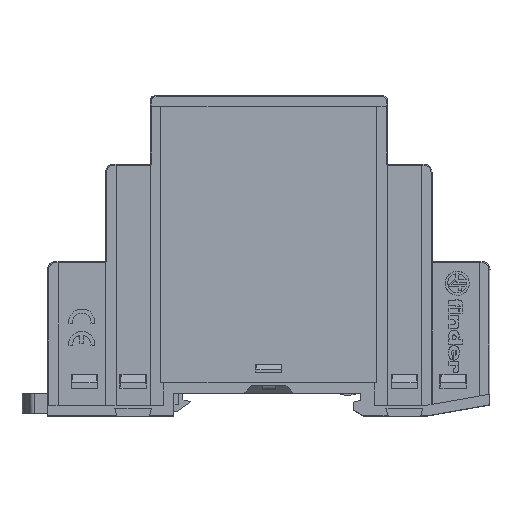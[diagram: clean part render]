
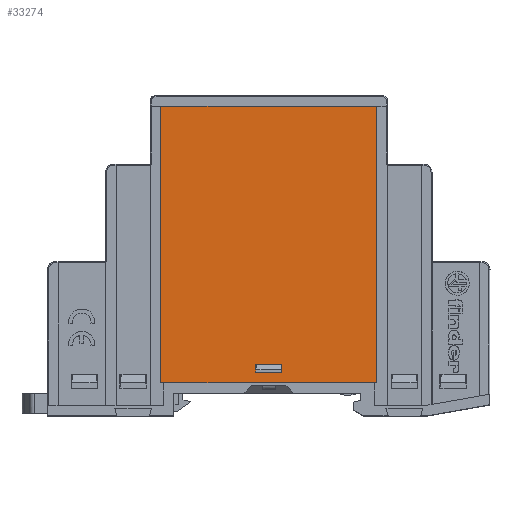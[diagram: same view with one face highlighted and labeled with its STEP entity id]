
A CAD part, top view. The second image highlights one B-rep face of the part: STEP entity #33274.
In plain terms, the highlighted planar face has unit normal (0, 0, 1).
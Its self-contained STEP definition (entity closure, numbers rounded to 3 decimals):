
#1697=ORIENTED_EDGE('',*,*,#10099,.T.);
#1698=ORIENTED_EDGE('',*,*,#10100,.T.);
#1699=ORIENTED_EDGE('',*,*,#10101,.T.);
#1700=ORIENTED_EDGE('',*,*,#10102,.T.);
#1701=ORIENTED_EDGE('',*,*,#10103,.T.);
#1702=ORIENTED_EDGE('',*,*,#10104,.T.);
#1703=ORIENTED_EDGE('',*,*,#9823,.T.);
#1704=ORIENTED_EDGE('',*,*,#10105,.T.);
#9823=EDGE_CURVE('',#15266,#15265,#19235,.T.);
#10099=EDGE_CURVE('',#15476,#15477,#19483,.T.);
#10100=EDGE_CURVE('',#15477,#15478,#19484,.T.);
#10101=EDGE_CURVE('',#15478,#15479,#19485,.T.);
#10102=EDGE_CURVE('',#15479,#15476,#19486,.T.);
#10103=EDGE_CURVE('',#15480,#15481,#19487,.T.);
#10104=EDGE_CURVE('',#15481,#15266,#19488,.T.);
#10105=EDGE_CURVE('',#15265,#15480,#19489,.T.);
#15265=VERTEX_POINT('',#51101);
#15266=VERTEX_POINT('',#51103);
#15476=VERTEX_POINT('',#51810);
#15477=VERTEX_POINT('',#51811);
#15478=VERTEX_POINT('',#51813);
#15479=VERTEX_POINT('',#51815);
#15480=VERTEX_POINT('',#51818);
#15481=VERTEX_POINT('',#51819);
#19235=LINE('',#51102,#24076);
#19483=LINE('',#51809,#24324);
#19484=LINE('',#51812,#24325);
#19485=LINE('',#51814,#24326);
#19486=LINE('',#51816,#24327);
#19487=LINE('',#51817,#24328);
#19488=LINE('',#51820,#24329);
#19489=LINE('',#51821,#24330);
#24076=VECTOR('',#42518,1000.);
#24324=VECTOR('',#42904,1000.);
#24325=VECTOR('',#42905,1000.);
#24326=VECTOR('',#42906,1000.);
#24327=VECTOR('',#42907,1000.);
#24328=VECTOR('',#42908,1000.);
#24329=VECTOR('',#42909,1000.);
#24330=VECTOR('',#42910,1000.);
#28800=EDGE_LOOP('',(#1697,#1698,#1699,#1700));
#28801=EDGE_LOOP('',(#1701,#1702,#1703,#1704));
#30411=FACE_BOUND('',#28800,.T.);
#30412=FACE_BOUND('',#28801,.T.);
#31960=PLANE('',#40550);
#33274=ADVANCED_FACE('',(#30411,#30412),#31960,.T.);
#40550=AXIS2_PLACEMENT_3D('',#51808,#42902,#42903);
#42518=DIRECTION('',(0.,1.,0.));
#42902=DIRECTION('',(0.,0.,1.));
#42903=DIRECTION('',(1.,0.,0.));
#42904=DIRECTION('',(0.,-1.,0.));
#42905=DIRECTION('',(-1.,0.,0.));
#42906=DIRECTION('',(0.,1.,0.));
#42907=DIRECTION('',(1.,0.,0.));
#42908=DIRECTION('',(0.,-1.,0.));
#42909=DIRECTION('',(1.,0.,0.));
#42910=DIRECTION('',(-1.,0.,0.));
#51101=CARTESIAN_POINT('',(20.5,5.5,0.));
#51102=CARTESIAN_POINT('',(20.5,-20.75,0.));
#51103=CARTESIAN_POINT('',(20.5,-47.,0.));
#51808=CARTESIAN_POINT('',(-20.501,-47.001,0.));
#51809=CARTESIAN_POINT('',(2.5,-44.25,0.));
#51810=CARTESIAN_POINT('',(2.5,-43.5,0.));
#51811=CARTESIAN_POINT('',(2.5,-45.,0.));
#51812=CARTESIAN_POINT('',(0.,-45.,0.));
#51813=CARTESIAN_POINT('',(-2.5,-45.,0.));
#51814=CARTESIAN_POINT('',(-2.5,-44.25,0.));
#51815=CARTESIAN_POINT('',(-2.5,-43.5,0.));
#51816=CARTESIAN_POINT('',(0.,-43.5,0.));
#51817=CARTESIAN_POINT('',(-20.5,-20.75,0.));
#51818=CARTESIAN_POINT('',(-20.5,5.5,0.));
#51819=CARTESIAN_POINT('',(-20.5,-47.,0.));
#51820=CARTESIAN_POINT('',(0.,-47.,0.));
#51821=CARTESIAN_POINT('',(0.,5.5,0.));
